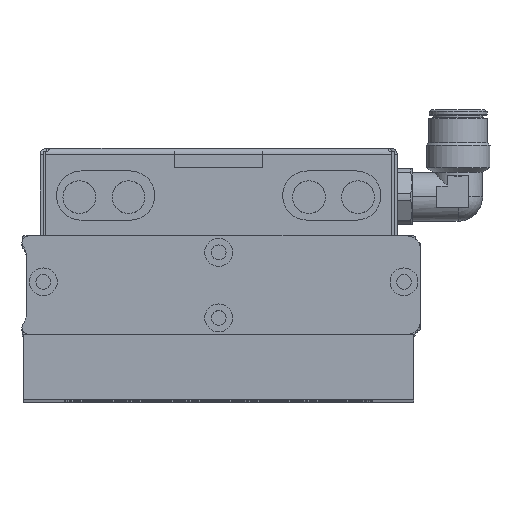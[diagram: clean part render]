
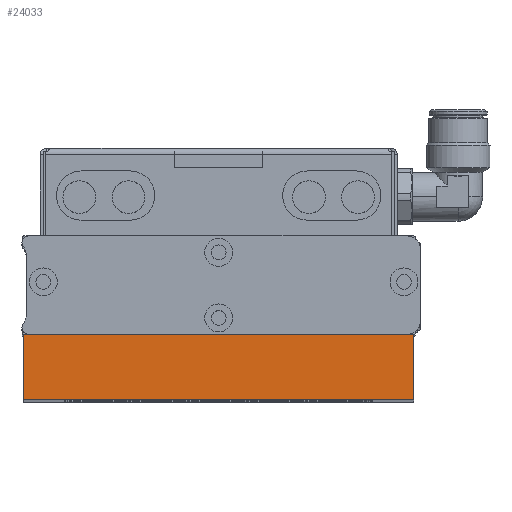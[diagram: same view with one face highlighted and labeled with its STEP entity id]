
A CAD part, top view. The second image highlights one B-rep face of the part: STEP entity #24033.
In plain terms, the highlighted planar face has unit normal (0, 0, 1).
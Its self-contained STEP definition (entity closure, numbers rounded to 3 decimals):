
#322 = CARTESIAN_POINT ( 'NONE',  ( -59.5, -15., 202. ) ) ;
#581 = VECTOR ( 'NONE', #7717, 1000. ) ;
#827 = LINE ( 'NONE', #6725, #20666 ) ;
#1905 = AXIS2_PLACEMENT_3D ( 'NONE', #12666, #24412, #17482 ) ;
#2536 = EDGE_LOOP ( 'NONE', ( #26582, #18464, #23084, #23997 ) ) ;
#2594 = PLANE ( 'NONE',  #1905 ) ;
#5631 = EDGE_CURVE ( 'NONE', #6137, #17155, #827, .T. ) ;
#6137 = VERTEX_POINT ( 'NONE', #7874 ) ;
#6725 = CARTESIAN_POINT ( 'NONE',  ( -59.5, -35., 202. ) ) ;
#7016 = LINE ( 'NONE', #20735, #29032 ) ;
#7717 = DIRECTION ( 'NONE',  ( 0., -1., 0. ) ) ;
#7749 = EDGE_CURVE ( 'NONE', #19023, #17155, #7016, .T. ) ;
#7830 = CARTESIAN_POINT ( 'NONE',  ( -59.5, -15., 202. ) ) ;
#7874 = CARTESIAN_POINT ( 'NONE',  ( -59.5, -35., 202. ) ) ;
#9140 = DIRECTION ( 'NONE',  ( 0., -1., 0. ) ) ;
#9668 = CARTESIAN_POINT ( 'NONE',  ( 59.5, -35., 202. ) ) ;
#10910 = CARTESIAN_POINT ( 'NONE',  ( 59.5, -15., 202. ) ) ;
#11939 = DIRECTION ( 'NONE',  ( 1., 0., 0. ) ) ;
#12085 = VECTOR ( 'NONE', #11939, 1000. ) ;
#12666 = CARTESIAN_POINT ( 'NONE',  ( -59.5, -15., 202. ) ) ;
#13774 = VERTEX_POINT ( 'NONE', #13780 ) ;
#13780 = CARTESIAN_POINT ( 'NONE',  ( -59.5, -15., 202. ) ) ;
#17155 = VERTEX_POINT ( 'NONE', #9668 ) ;
#17482 = DIRECTION ( 'NONE',  ( 0., 1., 0. ) ) ;
#17579 = EDGE_CURVE ( 'NONE', #13774, #6137, #30257, .T. ) ;
#18464 = ORIENTED_EDGE ( 'NONE', *, *, #7749, .F. ) ;
#19023 = VERTEX_POINT ( 'NONE', #10910 ) ;
#19382 = EDGE_CURVE ( 'NONE', #13774, #19023, #29669, .T. ) ;
#20666 = VECTOR ( 'NONE', #21010, 1000. ) ;
#20735 = CARTESIAN_POINT ( 'NONE',  ( 59.5, -15., 202. ) ) ;
#21010 = DIRECTION ( 'NONE',  ( 1., 0., 0. ) ) ;
#23084 = ORIENTED_EDGE ( 'NONE', *, *, #19382, .F. ) ;
#23997 = ORIENTED_EDGE ( 'NONE', *, *, #17579, .T. ) ;
#24033 = ADVANCED_FACE ( 'NONE', ( #27008 ), #2594, .F. ) ;
#24412 = DIRECTION ( 'NONE',  ( 0., 0., -1. ) ) ;
#26582 = ORIENTED_EDGE ( 'NONE', *, *, #5631, .T. ) ;
#27008 = FACE_OUTER_BOUND ( 'NONE', #2536, .T. ) ;
#29032 = VECTOR ( 'NONE', #9140, 1000. ) ;
#29669 = LINE ( 'NONE', #322, #12085 ) ;
#30257 = LINE ( 'NONE', #7830, #581 ) ;
